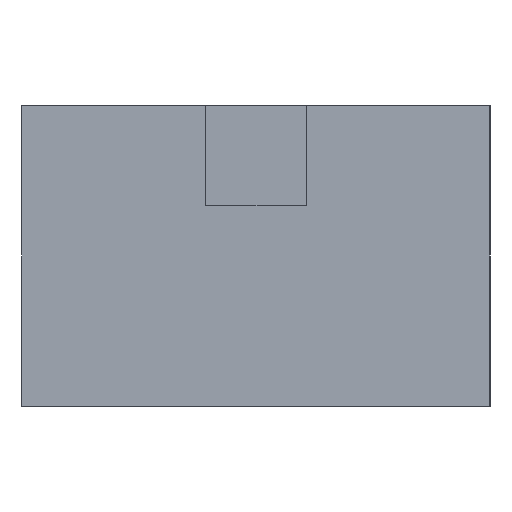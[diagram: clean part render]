
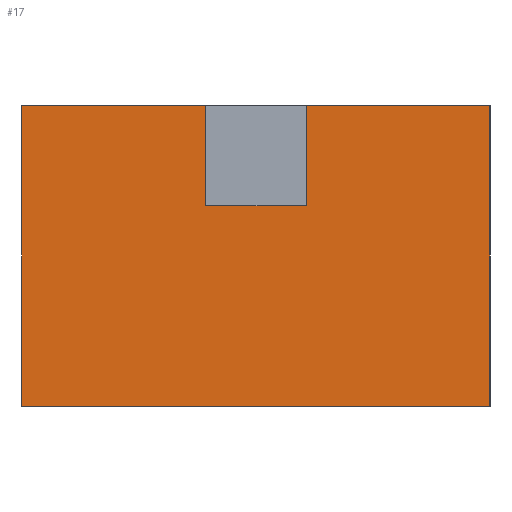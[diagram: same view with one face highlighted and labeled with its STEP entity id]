
A CAD part, left-side view. The second image highlights one B-rep face of the part: STEP entity #17.
In plain terms, the highlighted planar face has unit normal (-1, 0, 0).
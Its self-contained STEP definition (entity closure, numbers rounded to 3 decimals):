
#17 = ADVANCED_FACE('',(#18),#32,.F.);
#18 = FACE_BOUND('',#19,.F.);
#19 = EDGE_LOOP('',(#20,#55,#83,#111,#139,#165,#191,#217));
#20 = ORIENTED_EDGE('',*,*,#21,.F.);
#21 = EDGE_CURVE('',#22,#24,#26,.T.);
#22 = VERTEX_POINT('',#23);
#23 = CARTESIAN_POINT('',(0.,0.,0.));
#24 = VERTEX_POINT('',#25);
#25 = CARTESIAN_POINT('',(0.,0.,9.));
#26 = SURFACE_CURVE('',#27,(#31,#43),.PCURVE_S1.);
#27 = LINE('',#28,#29);
#28 = CARTESIAN_POINT('',(0.,0.,0.));
#29 = VECTOR('',#30,1.);
#30 = DIRECTION('',(0.,0.,1.));
#31 = PCURVE('',#32,#37);
#32 = PLANE('',#33);
#33 = AXIS2_PLACEMENT_3D('',#34,#35,#36);
#34 = CARTESIAN_POINT('',(0.,0.,0.));
#35 = DIRECTION('',(1.,0.,-0.));
#36 = DIRECTION('',(0.,0.,1.));
#37 = DEFINITIONAL_REPRESENTATION('',(#38),#42);
#38 = LINE('',#39,#40);
#39 = CARTESIAN_POINT('',(0.,0.));
#40 = VECTOR('',#41,1.);
#41 = DIRECTION('',(1.,0.));
#42 = ( GEOMETRIC_REPRESENTATION_CONTEXT(2) 
PARAMETRIC_REPRESENTATION_CONTEXT() REPRESENTATION_CONTEXT('2D SPACE',''
  ) );
#43 = PCURVE('',#44,#49);
#44 = PLANE('',#45);
#45 = AXIS2_PLACEMENT_3D('',#46,#47,#48);
#46 = CARTESIAN_POINT('',(0.,0.,0.));
#47 = DIRECTION('',(-0.,1.,0.));
#48 = DIRECTION('',(0.,0.,1.));
#49 = DEFINITIONAL_REPRESENTATION('',(#50),#54);
#50 = LINE('',#51,#52);
#51 = CARTESIAN_POINT('',(0.,0.));
#52 = VECTOR('',#53,1.);
#53 = DIRECTION('',(1.,0.));
#54 = ( GEOMETRIC_REPRESENTATION_CONTEXT(2) 
PARAMETRIC_REPRESENTATION_CONTEXT() REPRESENTATION_CONTEXT('2D SPACE',''
  ) );
#55 = ORIENTED_EDGE('',*,*,#56,.T.);
#56 = EDGE_CURVE('',#22,#57,#59,.T.);
#57 = VERTEX_POINT('',#58);
#58 = CARTESIAN_POINT('',(0.,14.,0.));
#59 = SURFACE_CURVE('',#60,(#64,#71),.PCURVE_S1.);
#60 = LINE('',#61,#62);
#61 = CARTESIAN_POINT('',(0.,0.,0.));
#62 = VECTOR('',#63,1.);
#63 = DIRECTION('',(-0.,1.,0.));
#64 = PCURVE('',#32,#65);
#65 = DEFINITIONAL_REPRESENTATION('',(#66),#70);
#66 = LINE('',#67,#68);
#67 = CARTESIAN_POINT('',(0.,0.));
#68 = VECTOR('',#69,1.);
#69 = DIRECTION('',(0.,-1.));
#70 = ( GEOMETRIC_REPRESENTATION_CONTEXT(2) 
PARAMETRIC_REPRESENTATION_CONTEXT() REPRESENTATION_CONTEXT('2D SPACE',''
  ) );
#71 = PCURVE('',#72,#77);
#72 = PLANE('',#73);
#73 = AXIS2_PLACEMENT_3D('',#74,#75,#76);
#74 = CARTESIAN_POINT('',(0.,0.,0.));
#75 = DIRECTION('',(0.,0.,1.));
#76 = DIRECTION('',(1.,0.,-0.));
#77 = DEFINITIONAL_REPRESENTATION('',(#78),#82);
#78 = LINE('',#79,#80);
#79 = CARTESIAN_POINT('',(0.,0.));
#80 = VECTOR('',#81,1.);
#81 = DIRECTION('',(0.,1.));
#82 = ( GEOMETRIC_REPRESENTATION_CONTEXT(2) 
PARAMETRIC_REPRESENTATION_CONTEXT() REPRESENTATION_CONTEXT('2D SPACE',''
  ) );
#83 = ORIENTED_EDGE('',*,*,#84,.T.);
#84 = EDGE_CURVE('',#57,#85,#87,.T.);
#85 = VERTEX_POINT('',#86);
#86 = CARTESIAN_POINT('',(0.,14.,9.));
#87 = SURFACE_CURVE('',#88,(#92,#99),.PCURVE_S1.);
#88 = LINE('',#89,#90);
#89 = CARTESIAN_POINT('',(0.,14.,0.));
#90 = VECTOR('',#91,1.);
#91 = DIRECTION('',(0.,0.,1.));
#92 = PCURVE('',#32,#93);
#93 = DEFINITIONAL_REPRESENTATION('',(#94),#98);
#94 = LINE('',#95,#96);
#95 = CARTESIAN_POINT('',(0.,-14.));
#96 = VECTOR('',#97,1.);
#97 = DIRECTION('',(1.,0.));
#98 = ( GEOMETRIC_REPRESENTATION_CONTEXT(2) 
PARAMETRIC_REPRESENTATION_CONTEXT() REPRESENTATION_CONTEXT('2D SPACE',''
  ) );
#99 = PCURVE('',#100,#105);
#100 = PLANE('',#101);
#101 = AXIS2_PLACEMENT_3D('',#102,#103,#104);
#102 = CARTESIAN_POINT('',(0.,14.,0.));
#103 = DIRECTION('',(-0.,1.,0.));
#104 = DIRECTION('',(0.,0.,1.));
#105 = DEFINITIONAL_REPRESENTATION('',(#106),#110);
#106 = LINE('',#107,#108);
#107 = CARTESIAN_POINT('',(0.,0.));
#108 = VECTOR('',#109,1.);
#109 = DIRECTION('',(1.,0.));
#110 = ( GEOMETRIC_REPRESENTATION_CONTEXT(2) 
PARAMETRIC_REPRESENTATION_CONTEXT() REPRESENTATION_CONTEXT('2D SPACE',''
  ) );
#111 = ORIENTED_EDGE('',*,*,#112,.F.);
#112 = EDGE_CURVE('',#113,#85,#115,.T.);
#113 = VERTEX_POINT('',#114);
#114 = CARTESIAN_POINT('',(0.,8.5,9.));
#115 = SURFACE_CURVE('',#116,(#120,#127),.PCURVE_S1.);
#116 = LINE('',#117,#118);
#117 = CARTESIAN_POINT('',(0.,0.,9.));
#118 = VECTOR('',#119,1.);
#119 = DIRECTION('',(-0.,1.,0.));
#120 = PCURVE('',#32,#121);
#121 = DEFINITIONAL_REPRESENTATION('',(#122),#126);
#122 = LINE('',#123,#124);
#123 = CARTESIAN_POINT('',(9.,0.));
#124 = VECTOR('',#125,1.);
#125 = DIRECTION('',(0.,-1.));
#126 = ( GEOMETRIC_REPRESENTATION_CONTEXT(2) 
PARAMETRIC_REPRESENTATION_CONTEXT() REPRESENTATION_CONTEXT('2D SPACE',''
  ) );
#127 = PCURVE('',#128,#133);
#128 = PLANE('',#129);
#129 = AXIS2_PLACEMENT_3D('',#130,#131,#132);
#130 = CARTESIAN_POINT('',(0.,0.,9.));
#131 = DIRECTION('',(0.,0.,1.));
#132 = DIRECTION('',(1.,0.,-0.));
#133 = DEFINITIONAL_REPRESENTATION('',(#134),#138);
#134 = LINE('',#135,#136);
#135 = CARTESIAN_POINT('',(0.,0.));
#136 = VECTOR('',#137,1.);
#137 = DIRECTION('',(0.,1.));
#138 = ( GEOMETRIC_REPRESENTATION_CONTEXT(2) 
PARAMETRIC_REPRESENTATION_CONTEXT() REPRESENTATION_CONTEXT('2D SPACE',''
  ) );
#139 = ORIENTED_EDGE('',*,*,#140,.F.);
#140 = EDGE_CURVE('',#141,#113,#143,.T.);
#141 = VERTEX_POINT('',#142);
#142 = CARTESIAN_POINT('',(0.,8.5,6.));
#143 = SURFACE_CURVE('',#144,(#148,#154),.PCURVE_S1.);
#144 = LINE('',#145,#146);
#145 = CARTESIAN_POINT('',(0.,8.5,3.));
#146 = VECTOR('',#147,1.);
#147 = DIRECTION('',(0.,0.,1.));
#148 = PCURVE('',#32,#149);
#149 = DEFINITIONAL_REPRESENTATION('',(#150),#153);
#150 = B_SPLINE_CURVE_WITH_KNOTS('',1,(#151,#152),.UNSPECIFIED.,.F.,.F.,
  (2,2),(3.,6.),.PIECEWISE_BEZIER_KNOTS.);
#151 = CARTESIAN_POINT('',(6.,-8.5));
#152 = CARTESIAN_POINT('',(9.,-8.5));
#153 = ( GEOMETRIC_REPRESENTATION_CONTEXT(2) 
PARAMETRIC_REPRESENTATION_CONTEXT() REPRESENTATION_CONTEXT('2D SPACE',''
  ) );
#154 = PCURVE('',#155,#160);
#155 = PLANE('',#156);
#156 = AXIS2_PLACEMENT_3D('',#157,#158,#159);
#157 = CARTESIAN_POINT('',(-0.1,8.5,6.));
#158 = DIRECTION('',(-0.,1.,0.));
#159 = DIRECTION('',(0.,0.,1.));
#160 = DEFINITIONAL_REPRESENTATION('',(#161),#164);
#161 = B_SPLINE_CURVE_WITH_KNOTS('',1,(#162,#163),.UNSPECIFIED.,.F.,.F.,
  (2,2),(3.,6.),.PIECEWISE_BEZIER_KNOTS.);
#162 = CARTESIAN_POINT('',(0.,0.1));
#163 = CARTESIAN_POINT('',(3.,0.1));
#164 = ( GEOMETRIC_REPRESENTATION_CONTEXT(2) 
PARAMETRIC_REPRESENTATION_CONTEXT() REPRESENTATION_CONTEXT('2D SPACE',''
  ) );
#165 = ORIENTED_EDGE('',*,*,#166,.T.);
#166 = EDGE_CURVE('',#141,#167,#169,.T.);
#167 = VERTEX_POINT('',#168);
#168 = CARTESIAN_POINT('',(0.,5.5,6.));
#169 = SURFACE_CURVE('',#170,(#174,#180),.PCURVE_S1.);
#170 = LINE('',#171,#172);
#171 = CARTESIAN_POINT('',(0.,2.75,6.));
#172 = VECTOR('',#173,1.);
#173 = DIRECTION('',(0.,-1.,0.));
#174 = PCURVE('',#32,#175);
#175 = DEFINITIONAL_REPRESENTATION('',(#176),#179);
#176 = B_SPLINE_CURVE_WITH_KNOTS('',1,(#177,#178),.UNSPECIFIED.,.F.,.F.,
  (2,2),(-5.75,-2.75),.PIECEWISE_BEZIER_KNOTS.);
#177 = CARTESIAN_POINT('',(6.,-8.5));
#178 = CARTESIAN_POINT('',(6.,-5.5));
#179 = ( GEOMETRIC_REPRESENTATION_CONTEXT(2) 
PARAMETRIC_REPRESENTATION_CONTEXT() REPRESENTATION_CONTEXT('2D SPACE',''
  ) );
#180 = PCURVE('',#181,#186);
#181 = PLANE('',#182);
#182 = AXIS2_PLACEMENT_3D('',#183,#184,#185);
#183 = CARTESIAN_POINT('',(-0.1,5.5,6.));
#184 = DIRECTION('',(0.,0.,1.));
#185 = DIRECTION('',(1.,0.,-0.));
#186 = DEFINITIONAL_REPRESENTATION('',(#187),#190);
#187 = B_SPLINE_CURVE_WITH_KNOTS('',1,(#188,#189),.UNSPECIFIED.,.F.,.F.,
  (2,2),(-5.75,-2.75),.PIECEWISE_BEZIER_KNOTS.);
#188 = CARTESIAN_POINT('',(0.1,3.));
#189 = CARTESIAN_POINT('',(0.1,0.));
#190 = ( GEOMETRIC_REPRESENTATION_CONTEXT(2) 
PARAMETRIC_REPRESENTATION_CONTEXT() REPRESENTATION_CONTEXT('2D SPACE',''
  ) );
#191 = ORIENTED_EDGE('',*,*,#192,.T.);
#192 = EDGE_CURVE('',#167,#193,#195,.T.);
#193 = VERTEX_POINT('',#194);
#194 = CARTESIAN_POINT('',(0.,5.5,9.));
#195 = SURFACE_CURVE('',#196,(#200,#206),.PCURVE_S1.);
#196 = LINE('',#197,#198);
#197 = CARTESIAN_POINT('',(0.,5.5,3.));
#198 = VECTOR('',#199,1.);
#199 = DIRECTION('',(0.,0.,1.));
#200 = PCURVE('',#32,#201);
#201 = DEFINITIONAL_REPRESENTATION('',(#202),#205);
#202 = B_SPLINE_CURVE_WITH_KNOTS('',1,(#203,#204),.UNSPECIFIED.,.F.,.F.,
  (2,2),(3.,6.),.PIECEWISE_BEZIER_KNOTS.);
#203 = CARTESIAN_POINT('',(6.,-5.5));
#204 = CARTESIAN_POINT('',(9.,-5.5));
#205 = ( GEOMETRIC_REPRESENTATION_CONTEXT(2) 
PARAMETRIC_REPRESENTATION_CONTEXT() REPRESENTATION_CONTEXT('2D SPACE',''
  ) );
#206 = PCURVE('',#207,#212);
#207 = PLANE('',#208);
#208 = AXIS2_PLACEMENT_3D('',#209,#210,#211);
#209 = CARTESIAN_POINT('',(-0.1,5.5,6.));
#210 = DIRECTION('',(-0.,1.,0.));
#211 = DIRECTION('',(0.,0.,1.));
#212 = DEFINITIONAL_REPRESENTATION('',(#213),#216);
#213 = B_SPLINE_CURVE_WITH_KNOTS('',1,(#214,#215),.UNSPECIFIED.,.F.,.F.,
  (2,2),(3.,6.),.PIECEWISE_BEZIER_KNOTS.);
#214 = CARTESIAN_POINT('',(0.,0.1));
#215 = CARTESIAN_POINT('',(3.,0.1));
#216 = ( GEOMETRIC_REPRESENTATION_CONTEXT(2) 
PARAMETRIC_REPRESENTATION_CONTEXT() REPRESENTATION_CONTEXT('2D SPACE',''
  ) );
#217 = ORIENTED_EDGE('',*,*,#218,.F.);
#218 = EDGE_CURVE('',#24,#193,#219,.T.);
#219 = SURFACE_CURVE('',#220,(#224,#231),.PCURVE_S1.);
#220 = LINE('',#221,#222);
#221 = CARTESIAN_POINT('',(0.,0.,9.));
#222 = VECTOR('',#223,1.);
#223 = DIRECTION('',(-0.,1.,0.));
#224 = PCURVE('',#32,#225);
#225 = DEFINITIONAL_REPRESENTATION('',(#226),#230);
#226 = LINE('',#227,#228);
#227 = CARTESIAN_POINT('',(9.,0.));
#228 = VECTOR('',#229,1.);
#229 = DIRECTION('',(0.,-1.));
#230 = ( GEOMETRIC_REPRESENTATION_CONTEXT(2) 
PARAMETRIC_REPRESENTATION_CONTEXT() REPRESENTATION_CONTEXT('2D SPACE',''
  ) );
#231 = PCURVE('',#128,#232);
#232 = DEFINITIONAL_REPRESENTATION('',(#233),#237);
#233 = LINE('',#234,#235);
#234 = CARTESIAN_POINT('',(0.,0.));
#235 = VECTOR('',#236,1.);
#236 = DIRECTION('',(0.,1.));
#237 = ( GEOMETRIC_REPRESENTATION_CONTEXT(2) 
PARAMETRIC_REPRESENTATION_CONTEXT() REPRESENTATION_CONTEXT('2D SPACE',''
  ) );
